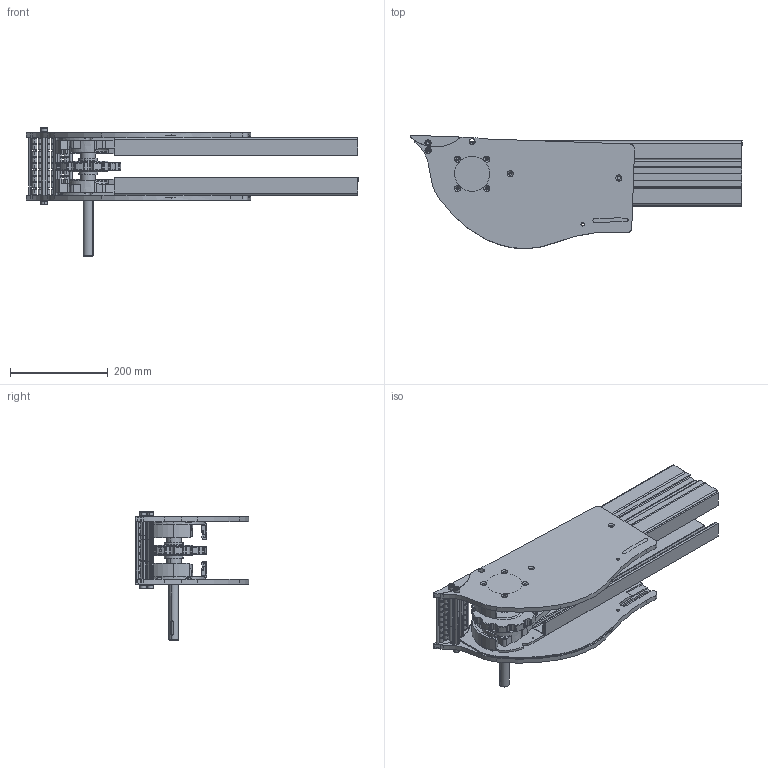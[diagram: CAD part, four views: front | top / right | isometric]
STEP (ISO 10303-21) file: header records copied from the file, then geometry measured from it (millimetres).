
FILE_DESCRIPTION (( 'STEP AP214' ), '1' );
FILE_NAME ('R3M-D20galets escamotables.STEP', '2011-06-28T11:56:00', ( '.' ), ( '' ), 'SwSTEP 2.0', 'SolidWorks 2010', '' );
FILE_SCHEMA (( 'AUTOMOTIVE_DESIGN' ));
Length unit declared in the file: millimetre
Products named in the file (16): AXE-R3_AXE-R3M20; R-CMG-escamotable_A droite ouvert; GT_6-10; 1-2 chape; R3FS_Default<Brut d''usinage>; AXE_D6 (transfert à galets)_AXE_D6-134_INOX; galet escamotable_Default; AF12-8_120; glissement R3PG_Default<Brut d''usinage>; R3M-D20galets escamotables; Roulement type BT 30x62x20; Carter sous chaine_Robur 3 à 120° (D); Carter sous chaine_Robur 3 à 120° (G); 3-880-11N_ROBUR; Emile_Maurin_23210_V_CHC_8x50_EF___cl_8_8___EN_ISO_4762_DIN_912_Emile Maurin 23210 V.CHC 8x50 EF   cl 8,8   EN ISO 4762 DIN 912; R-CMG-escamotable_A gauche fermé
Assembly tree (84 placements, depth 2):
  R3M-D20galets escamotables
    AF12-8_120  x3
    glissement R3PG_Default<Brut d''usinage>  x2
    GT_6-10  x54
    AXE_D6 (transfert à galets)_AXE_D6-134_INOX  x8
    Carter sous chaine_Robur 3 à 120° (G)
    Carter sous chaine_Robur 3 à 120° (D)
    galet escamotable_Default  x2
    Roulement type BT 30x62x20  x2
    Emile_Maurin_23210_V_CHC_8x50_EF___cl_8_8___EN_ISO_4762_DIN_912_Emile Maurin 23210 V.CHC 8x50 EF   cl 8,8   EN ISO 4762 DIN 912  x4
    AXE-R3_AXE-R3M20
    R-CMG-escamotable_A droite ouvert
    1-2 chape  x2
    R3FS_Default<Brut d''usinage>
    3-880-11N_ROBUR
    R-CMG-escamotable_A gauche fermé
Bounding box: 680.42 x 232.14 x 263 mm (x, y, z)
Volume: 3671167.5 mm3; surface area: 1354083 mm2
Topology: 87 solids, 87 shells, 1790 faces, 4851 edges, 3175 vertices
Faces by surface type: cylinder 829, plane 642, cone 167, torus 102, sphere 48, bspline 2
Entity records: 34884 total; most frequent: CARTESIAN_POINT 7795, DIRECTION 5680, ORIENTED_EDGE 5430, EDGE_CURVE 2715, AXIS2_PLACEMENT_3D 2186, VERTEX_POINT 1791, VECTOR 1308, LINE 1308
